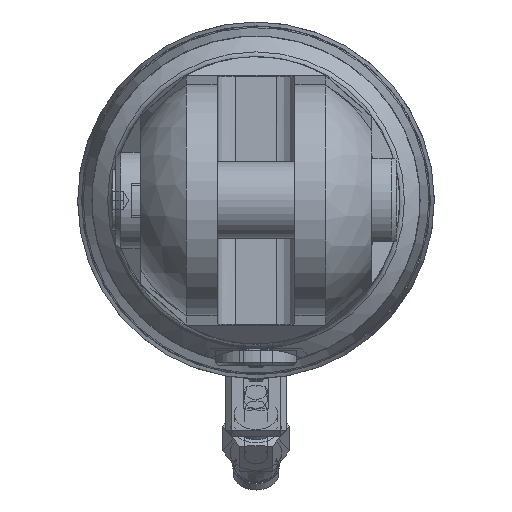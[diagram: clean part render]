
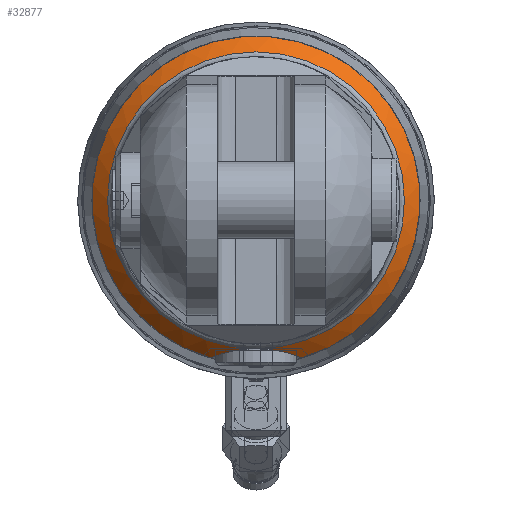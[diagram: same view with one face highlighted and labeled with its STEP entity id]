
A CAD part, left-side view. The second image highlights one B-rep face of the part: STEP entity #32877.
In plain terms, the highlighted conical face has half-angle 45.619 degrees and reference radius 51.431 mm.
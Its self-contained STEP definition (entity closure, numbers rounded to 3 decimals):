
#1797=B_SPLINE_CURVE_WITH_KNOTS('',3,(#59841,#59842,#59843,#59844,#59845,
#59846,#59847,#59848,#59849,#59850),.UNSPECIFIED.,.F.,.F.,(4,2,2,2,4),(3.938,
4.284,4.629,5.32,5.51),
 .UNSPECIFIED.);
#1798=B_SPLINE_CURVE_WITH_KNOTS('',3,(#59853,#59854,#59855,#59856,#59857,
#59858,#59859,#59860,#59861,#59862),.UNSPECIFIED.,.F.,.F.,(4,2,2,2,4),(2.367,
2.557,3.248,3.593,3.938),
 .UNSPECIFIED.);
#4575=FACE_OUTER_BOUND('',#6419,.T.);
#6419=EDGE_LOOP('',(#28375,#28376,#28377,#28378,#28379));
#12701=CIRCLE('',#34186,48.862);
#12702=CIRCLE('',#34187,48.862);
#12705=CIRCLE('',#34192,54.);
#15552=VERTEX_POINT('',#59621);
#15553=VERTEX_POINT('',#59623);
#15558=VERTEX_POINT('',#59840);
#15559=VERTEX_POINT('',#59851);
#19894=EDGE_CURVE('',#15553,#15552,#12701,.T.);
#19895=EDGE_CURVE('',#15552,#15553,#12702,.T.);
#19902=EDGE_CURVE('',#15553,#15558,#1797,.T.);
#19903=EDGE_CURVE('',#15559,#15558,#12705,.T.);
#19904=EDGE_CURVE('',#15559,#15553,#1798,.T.);
#28375=ORIENTED_EDGE('',*,*,#19902,.T.);
#28376=ORIENTED_EDGE('',*,*,#19903,.F.);
#28377=ORIENTED_EDGE('',*,*,#19904,.T.);
#28378=ORIENTED_EDGE('',*,*,#19894,.T.);
#28379=ORIENTED_EDGE('',*,*,#19895,.T.);
#29674=CONICAL_SURFACE('',#34191,51.431,0.796);
#32877=ADVANCED_FACE('',(#4575),#29674,.T.);
#34186=AXIS2_PLACEMENT_3D('',#59624,#39337,#39338);
#34187=AXIS2_PLACEMENT_3D('',#59625,#39339,#39340);
#34191=AXIS2_PLACEMENT_3D('',#59839,#39349,#39350);
#34192=AXIS2_PLACEMENT_3D('',#59852,#39351,#39352);
#39337=DIRECTION('center_axis',(1.,0.,0.));
#39338=DIRECTION('ref_axis',(0.,0.,
1.));
#39339=DIRECTION('center_axis',(1.,0.,0.));
#39340=DIRECTION('ref_axis',(0.,0.,
1.));
#39349=DIRECTION('center_axis',(1.,0.,0.));
#39350=DIRECTION('ref_axis',(0.,0.,
1.));
#39351=DIRECTION('center_axis',(1.,0.,0.));
#39352=DIRECTION('ref_axis',(0.,0.,
1.));
#59621=CARTESIAN_POINT('',(-3055.279,48.862,0.));
#59623=CARTESIAN_POINT('',(-3055.279,0.,-48.862));
#59624=CARTESIAN_POINT('Origin',(-3055.279,0.,
0.));
#59625=CARTESIAN_POINT('Origin',(-3055.279,0.,
0.));
#59839=CARTESIAN_POINT('Origin',(-3052.764,0.,
0.));
#59840=CARTESIAN_POINT('',(-3050.25,-15.001,-51.874));
#59841=CARTESIAN_POINT('Ctrl Pts',(-3055.279,0.,
-48.862));
#59842=CARTESIAN_POINT('Ctrl Pts',(-3055.279,-1.151,
-48.862));
#59843=CARTESIAN_POINT('Ctrl Pts',(-3055.191,-2.344,
-48.909));
#59844=CARTESIAN_POINT('Ctrl Pts',(-3054.825,-4.736,-49.112));
#59845=CARTESIAN_POINT('Ctrl Pts',(-3054.546,-5.934,
-49.267));
#59846=CARTESIAN_POINT('Ctrl Pts',(-3053.459,-9.429,
-49.888));
#59847=CARTESIAN_POINT('Ctrl Pts',(-3052.389,-11.623,-50.52));
#59848=CARTESIAN_POINT('Ctrl Pts',(-3050.927,-13.998,-51.44));
#59849=CARTESIAN_POINT('Ctrl Pts',(-3050.595,-14.504,
-51.651));
#59850=CARTESIAN_POINT('Ctrl Pts',(-3050.25,-15.001,-51.874));
#59851=CARTESIAN_POINT('',(-3050.25,15.001,-51.874));
#59852=CARTESIAN_POINT('Origin',(-3050.25,0.,0.));
#59853=CARTESIAN_POINT('Ctrl Pts',(-3050.25,15.001,-51.874));
#59854=CARTESIAN_POINT('Ctrl Pts',(-3050.595,14.504,-51.651));
#59855=CARTESIAN_POINT('Ctrl Pts',(-3050.927,13.998,-51.44));
#59856=CARTESIAN_POINT('Ctrl Pts',(-3052.389,11.623,-50.52));
#59857=CARTESIAN_POINT('Ctrl Pts',(-3053.459,9.429,-49.888));
#59858=CARTESIAN_POINT('Ctrl Pts',(-3054.546,5.934,-49.267));
#59859=CARTESIAN_POINT('Ctrl Pts',(-3054.825,4.736,-49.112));
#59860=CARTESIAN_POINT('Ctrl Pts',(-3055.191,2.344,-48.909));
#59861=CARTESIAN_POINT('Ctrl Pts',(-3055.279,1.151,-48.862));
#59862=CARTESIAN_POINT('Ctrl Pts',(-3055.279,0.,
-48.862));
